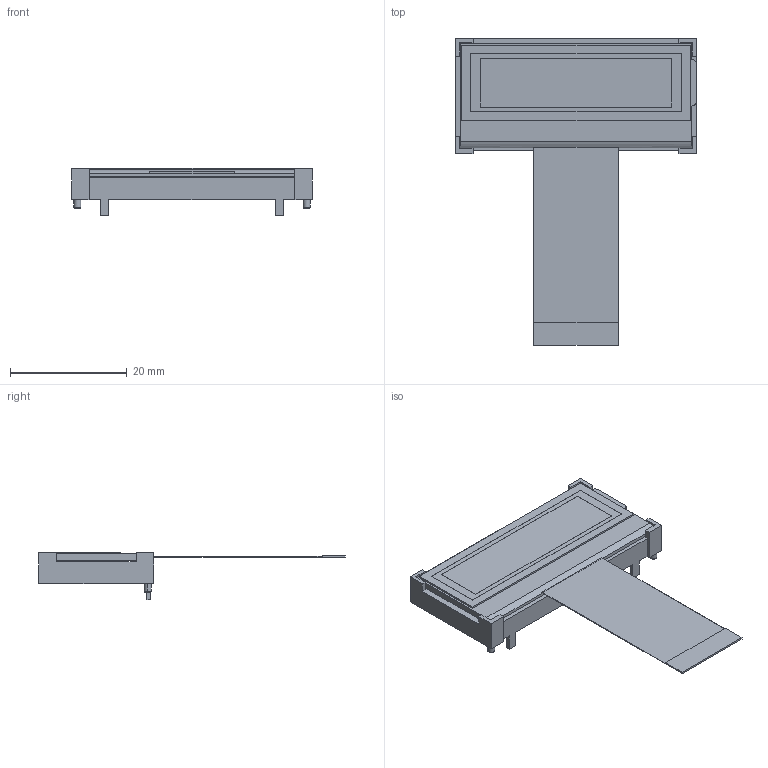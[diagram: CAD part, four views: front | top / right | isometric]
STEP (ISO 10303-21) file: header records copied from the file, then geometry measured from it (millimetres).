
FILE_DESCRIPTION (( 'STEP AP203' ), '1' );
FILE_NAME ('NHD-C12832DA-FSW-FBW-3V3.STEP', '2024-10-30T16:55:40', ( '' ), ( '' ), 'SwSTEP 2.0', 'SolidWorks 2019', '' );
FILE_SCHEMA (( 'CONFIG_CONTROL_DESIGN' ));
Length unit declared in the file: millimetre
Products named in the file (2): NHD-C12832DA-FSW-FBW-3V3
Bounding box: 41.3 x 52.57 x 8.2 mm (x, y, z)
Volume: 4102.1 mm3; surface area: 4763.5 mm2
Topology: 2 solids, 2 shells, 84 faces, 224 edges, 150 vertices
Faces by surface type: plane 73, cylinder 7, bspline 4
Entity records: 2833 total; most frequent: CARTESIAN_POINT 592, ORIENTED_EDGE 448, DIRECTION 404, EDGE_CURVE 224, VECTOR 192, LINE 192, VERTEX_POINT 150, AXIS2_PLACEMENT_3D 106
